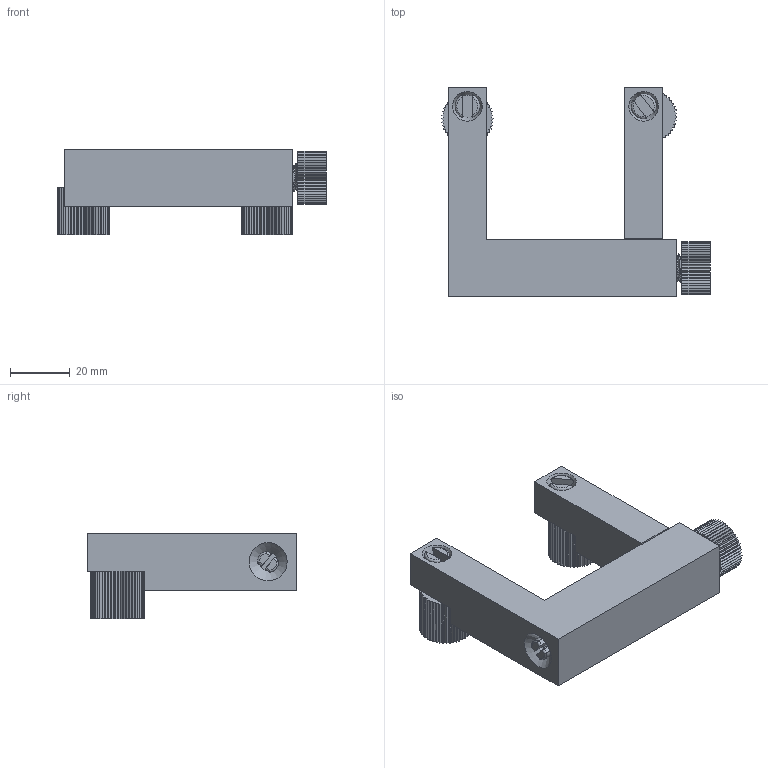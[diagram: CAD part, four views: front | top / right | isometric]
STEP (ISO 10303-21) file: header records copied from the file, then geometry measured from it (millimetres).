
FILE_DESCRIPTION (( 'STEP AP203' ), '1' );
FILE_NAME ('3D printable soldering clamp.STEP', '2023-05-20T19:50:51', ( 'andrewgodfrey33@gmail.com' ), ( '' ), 'SwSTEP 2.0', 'SolidWorks 2020', '' );
FILE_SCHEMA (( 'CONFIG_CONTROL_DESIGN' ));
Length unit declared in the file: inch
Products named in the file (5): Soldering clamp main body; Soldering clamp adjustable arm; cam; Screw; 3D printable soldering clamp
Assembly tree (5 placements, depth 2):
  3D printable soldering clamp
    Soldering clamp main body
    Soldering clamp adjustable arm
    Screw
    cam  x2
Bounding box: 89.7 x 69.85 x 28.57 mm (x, y, z)
Volume: 49618.8 mm3; surface area: 26465.7 mm2
Topology: 5 solids, 5 shells, 538 faces, 1561 edges, 1035 vertices
Faces by surface type: plane 350, cylinder 158, cone 18, bspline 6, torus 6
Full cylindrical faces by diameter (mm): 6.096 x1, 7.112 x1, 9.906 x2
Entity records: 20702 total; most frequent: CARTESIAN_POINT 9979, ORIENTED_EDGE 2194, DIRECTION 2056, EDGE_CURVE 1097, VECTOR 806, LINE 806, VERTEX_POINT 733, AXIS2_PLACEMENT_3D 625
